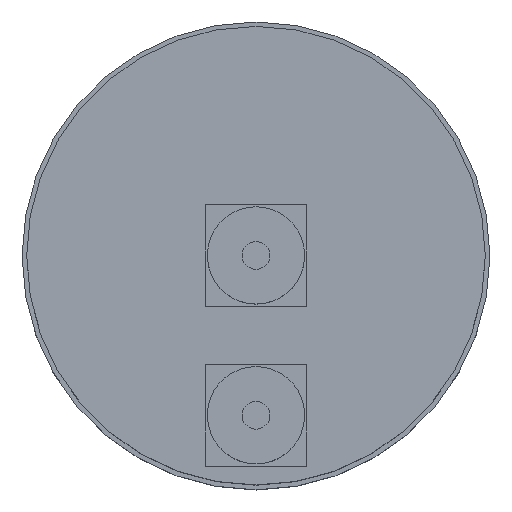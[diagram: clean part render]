
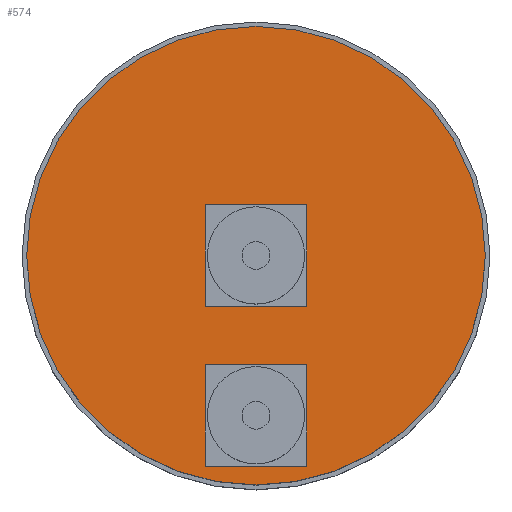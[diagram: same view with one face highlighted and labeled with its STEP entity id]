
A CAD part, top view. The second image highlights one B-rep face of the part: STEP entity #574.
In plain terms, the highlighted planar face has unit normal (0, 0, 1).
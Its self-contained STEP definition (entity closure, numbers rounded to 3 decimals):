
#10 = VERTEX_POINT ( 'NONE', #17 ) ;
#17 = CARTESIAN_POINT ( 'NONE',  ( -49.5, 0., 49. ) ) ;
#21 = CIRCLE ( 'NONE', #575, 49.5 ) ;
#23 = EDGE_LOOP ( 'NONE', ( #516, #77, #746, #353 ) ) ;
#32 = LINE ( 'NONE', #538, #258 ) ;
#37 = VECTOR ( 'NONE', #600, 1000. ) ;
#39 = EDGE_CURVE ( 'NONE', #10, #343, #21, .T. ) ;
#40 = EDGE_LOOP ( 'NONE', ( #180, #197 ) ) ;
#45 = CARTESIAN_POINT ( 'NONE',  ( -11., 11., 49. ) ) ;
#47 = LINE ( 'NONE', #181, #416 ) ;
#51 = DIRECTION ( 'NONE',  ( 0., 0., 1. ) ) ;
#59 = EDGE_CURVE ( 'NONE', #172, #208, #94, .T. ) ;
#74 = VECTOR ( 'NONE', #790, 1000. ) ;
#75 = AXIS2_PLACEMENT_3D ( 'NONE', #663, #98, #539 ) ;
#77 = ORIENTED_EDGE ( 'NONE', *, *, #405, .F. ) ;
#89 = CARTESIAN_POINT ( 'NONE',  ( 11., 11., 49. ) ) ;
#94 = LINE ( 'NONE', #89, #37 ) ;
#98 = DIRECTION ( 'NONE',  ( 0., 0., 1. ) ) ;
#118 = AXIS2_PLACEMENT_3D ( 'NONE', #248, #51, #500 ) ;
#121 = CARTESIAN_POINT ( 'NONE',  ( 11., -23.5, 49. ) ) ;
#142 = EDGE_CURVE ( 'NONE', #313, #335, #749, .T. ) ;
#155 = VERTEX_POINT ( 'NONE', #382 ) ;
#157 = CARTESIAN_POINT ( 'NONE',  ( -11., -23.5, 49. ) ) ;
#160 = CARTESIAN_POINT ( 'NONE',  ( -11., -11., 49. ) ) ;
#172 = VERTEX_POINT ( 'NONE', #547 ) ;
#180 = ORIENTED_EDGE ( 'NONE', *, *, #39, .T. ) ;
#181 = CARTESIAN_POINT ( 'NONE',  ( -11., -45.5, 49. ) ) ;
#183 = CARTESIAN_POINT ( 'NONE',  ( -11., -23.5, 49. ) ) ;
#197 = ORIENTED_EDGE ( 'NONE', *, *, #439, .T. ) ;
#208 = VERTEX_POINT ( 'NONE', #296 ) ;
#213 = DIRECTION ( 'NONE',  ( 0., 0., 1. ) ) ;
#235 = DIRECTION ( 'NONE',  ( 0., -1., 0. ) ) ;
#236 = ORIENTED_EDGE ( 'NONE', *, *, #142, .F. ) ;
#248 = CARTESIAN_POINT ( 'NONE',  ( 0., 0., 49. ) ) ;
#258 = VECTOR ( 'NONE', #729, 1000. ) ;
#260 = VECTOR ( 'NONE', #393, 1000. ) ;
#263 = EDGE_CURVE ( 'NONE', #666, #313, #47, .T. ) ;
#276 = CIRCLE ( 'NONE', #75, 49.5 ) ;
#282 = LINE ( 'NONE', #534, #74 ) ;
#290 = ORIENTED_EDGE ( 'NONE', *, *, #773, .F. ) ;
#296 = CARTESIAN_POINT ( 'NONE',  ( 11., 11., 49. ) ) ;
#310 = CARTESIAN_POINT ( 'NONE',  ( -11., -45.5, 49. ) ) ;
#312 = PLANE ( 'NONE',  #118 ) ;
#313 = VERTEX_POINT ( 'NONE', #424 ) ;
#335 = VERTEX_POINT ( 'NONE', #743 ) ;
#343 = VERTEX_POINT ( 'NONE', #613 ) ;
#352 = LINE ( 'NONE', #157, #260 ) ;
#353 = ORIENTED_EDGE ( 'NONE', *, *, #501, .F. ) ;
#382 = CARTESIAN_POINT ( 'NONE',  ( -11., -23.5, 49. ) ) ;
#393 = DIRECTION ( 'NONE',  ( 0., -1., 0. ) ) ;
#405 = EDGE_CURVE ( 'NONE', #763, #172, #282, .T. ) ;
#413 = CARTESIAN_POINT ( 'NONE',  ( 0., 0., 49. ) ) ;
#416 = VECTOR ( 'NONE', #554, 1000. ) ;
#424 = CARTESIAN_POINT ( 'NONE',  ( 11., -45.5, 49. ) ) ;
#439 = EDGE_CURVE ( 'NONE', #343, #10, #276, .T. ) ;
#441 = LINE ( 'NONE', #745, #580 ) ;
#447 = ORIENTED_EDGE ( 'NONE', *, *, #263, .F. ) ;
#450 = ORIENTED_EDGE ( 'NONE', *, *, #712, .F. ) ;
#464 = DIRECTION ( 'NONE',  ( 1., 0., 0. ) ) ;
#484 = FACE_BOUND ( 'NONE', #740, .T. ) ;
#485 = VECTOR ( 'NONE', #744, 1000. ) ;
#498 = DIRECTION ( 'NONE',  ( -1., 0., 0. ) ) ;
#500 = DIRECTION ( 'NONE',  ( 1., 0., 0. ) ) ;
#501 = EDGE_CURVE ( 'NONE', #208, #586, #32, .T. ) ;
#516 = ORIENTED_EDGE ( 'NONE', *, *, #59, .F. ) ;
#534 = CARTESIAN_POINT ( 'NONE',  ( -11., -11., 49. ) ) ;
#538 = CARTESIAN_POINT ( 'NONE',  ( -11., 11., 49. ) ) ;
#539 = DIRECTION ( 'NONE',  ( 1., 0., 0. ) ) ;
#547 = CARTESIAN_POINT ( 'NONE',  ( 11., -11., 49. ) ) ;
#548 = FACE_OUTER_BOUND ( 'NONE', #40, .T. ) ;
#554 = DIRECTION ( 'NONE',  ( 1., 0., 0. ) ) ;
#574 = ADVANCED_FACE ( 'NONE', ( #781, #548, #484 ), #312, .T. ) ;
#575 = AXIS2_PLACEMENT_3D ( 'NONE', #413, #213, #464 ) ;
#580 = VECTOR ( 'NONE', #235, 1000. ) ;
#585 = EDGE_CURVE ( 'NONE', #586, #763, #441, .T. ) ;
#586 = VERTEX_POINT ( 'NONE', #45 ) ;
#600 = DIRECTION ( 'NONE',  ( 0., 1., 0. ) ) ;
#613 = CARTESIAN_POINT ( 'NONE',  ( 49.5, 0., 49. ) ) ;
#663 = CARTESIAN_POINT ( 'NONE',  ( 0., 0., 49. ) ) ;
#666 = VERTEX_POINT ( 'NONE', #310 ) ;
#690 = LINE ( 'NONE', #183, #764 ) ;
#712 = EDGE_CURVE ( 'NONE', #335, #155, #690, .T. ) ;
#729 = DIRECTION ( 'NONE',  ( -1., 0., 0. ) ) ;
#740 = EDGE_LOOP ( 'NONE', ( #450, #236, #447, #290 ) ) ;
#743 = CARTESIAN_POINT ( 'NONE',  ( 11., -23.5, 49. ) ) ;
#744 = DIRECTION ( 'NONE',  ( 0., 1., 0. ) ) ;
#745 = CARTESIAN_POINT ( 'NONE',  ( -11., 11., 49. ) ) ;
#746 = ORIENTED_EDGE ( 'NONE', *, *, #585, .F. ) ;
#749 = LINE ( 'NONE', #121, #485 ) ;
#763 = VERTEX_POINT ( 'NONE', #160 ) ;
#764 = VECTOR ( 'NONE', #498, 1000. ) ;
#773 = EDGE_CURVE ( 'NONE', #155, #666, #352, .T. ) ;
#781 = FACE_BOUND ( 'NONE', #23, .T. ) ;
#790 = DIRECTION ( 'NONE',  ( 1., 0., 0. ) ) ;
